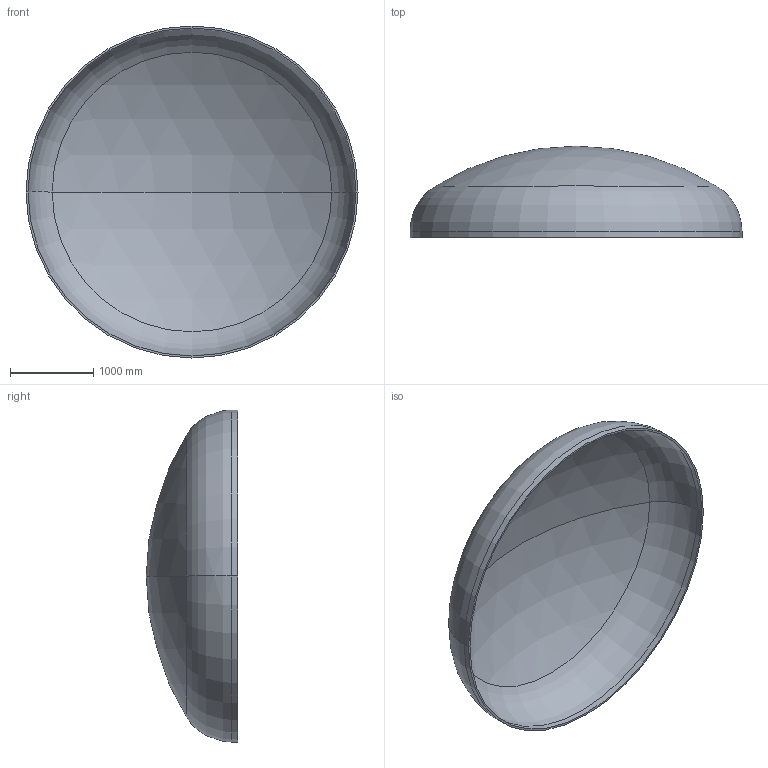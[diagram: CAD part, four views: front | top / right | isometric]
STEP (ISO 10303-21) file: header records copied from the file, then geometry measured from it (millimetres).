
FILE_DESCRIPTION (( 'STEP AP203' ), '1' );
FILE_NAME ('DIN 28013 Korbbogenform_-_Boden DIN 28013 - 4000 x 75 - I - s=24.step', '2016-07-01T22:10:42', ( '' ), ( '' ), 'SwSTEP 2.0', 'SolidWorks 2013', '' );
FILE_SCHEMA (( 'CONFIG_CONTROL_DESIGN' ));
Length unit declared in the file: millimetre
Products named in the file (1): DIN 28013 Korbbogenform_-_Boden DIN 28013 - 4000 x 75 - I - s=24
Bounding box: 4000 x 1101.3 x 4000 mm (x, y, z)
Volume: 436763303.9 mm3; surface area: 36697917.5 mm2
Topology: 1 solids, 1 shells, 13 faces, 24 edges, 14 vertices
Faces by surface type: torus 4, cylinder 4, sphere 4, plane 1
Entity records: 407 total; most frequent: DIRECTION 72, CARTESIAN_POINT 52, ORIENTED_EDGE 48, AXIS2_PLACEMENT_3D 34, EDGE_CURVE 24, CIRCLE 20, EDGE_LOOP 14, VERTEX_POINT 14
